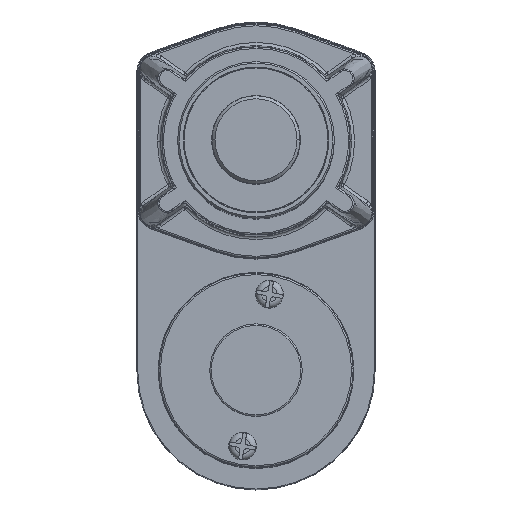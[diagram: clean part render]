
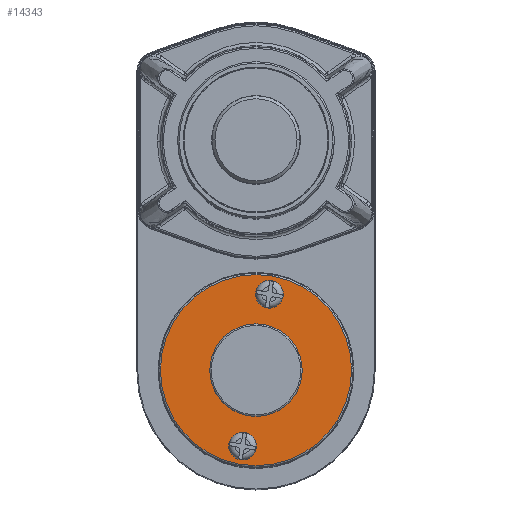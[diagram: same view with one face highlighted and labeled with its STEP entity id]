
A CAD part, top view. The second image highlights one B-rep face of the part: STEP entity #14343.
In plain terms, the highlighted planar face has unit normal (0, 0, 1).
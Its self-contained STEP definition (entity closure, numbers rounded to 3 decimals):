
#201 = CARTESIAN_POINT ( 'NONE',  ( -129.093, -35.69, 188.255 ) ) ;
#517 = CARTESIAN_POINT ( 'NONE',  ( -143.865, -33.085, 188.255 ) ) ;
#1558 = CIRCLE ( 'NONE', #47553, 31. ) ;
#1732 = CIRCLE ( 'NONE', #32984, 15. ) ;
#2067 = AXIS2_PLACEMENT_3D ( 'NONE', #13763, #30058, #21637 ) ;
#2083 = EDGE_CURVE ( 'NONE', #22341, #19103, #1558, .T. ) ;
#4012 = PLANE ( 'NONE',  #31816 ) ;
#5014 = CIRCLE ( 'NONE', #35380, 4.5 ) ;
#5232 = CIRCLE ( 'NONE', #38214, 31. ) ;
#7123 = DIRECTION ( 'NONE',  ( 0., 0., 1. ) ) ;
#8060 = DIRECTION ( 'NONE',  ( 0., 0., 1. ) ) ;
#8186 = ORIENTED_EDGE ( 'NONE', *, *, #12626, .F. ) ;
#8964 = DIRECTION ( 'NONE',  ( -0.174, -0.985, 0. ) ) ;
#9043 = EDGE_LOOP ( 'NONE', ( #24708, #22081 ) ) ;
#12626 = EDGE_CURVE ( 'NONE', #53802, #26276, #38250, .T. ) ;
#12716 = DIRECTION ( 'NONE',  ( 0., 0., 1. ) ) ;
#13560 = VERTEX_POINT ( 'NONE', #41445 ) ;
#13570 = DIRECTION ( 'NONE',  ( 0., 0., 1. ) ) ;
#13763 = CARTESIAN_POINT ( 'NONE',  ( -148.206, -57.705, 188.255 ) ) ;
#14343 = ADVANCED_FACE ( 'NONE', ( #37712, #24936, #33625, #33891 ), #4012, .T. ) ;
#14384 = CARTESIAN_POINT ( 'NONE',  ( -148.206, -57.705, 188.255 ) ) ;
#15542 = EDGE_LOOP ( 'NONE', ( #36324, #43753 ) ) ;
#16000 = DIRECTION ( 'NONE',  ( -0.174, -0.985, 0. ) ) ;
#16080 = EDGE_LOOP ( 'NONE', ( #47651, #8186 ) ) ;
#17287 = AXIS2_PLACEMENT_3D ( 'NONE', #21047, #29194, #25645 ) ;
#17400 = DIRECTION ( 'NONE',  ( 0., 0., 1. ) ) ;
#17600 = DIRECTION ( 'NONE',  ( -0.174, -0.985, 0. ) ) ;
#19103 = VERTEX_POINT ( 'NONE', #27449 ) ;
#19617 = CARTESIAN_POINT ( 'NONE',  ( -147.424, -53.274, 188.255 ) ) ;
#21047 = CARTESIAN_POINT ( 'NONE',  ( -139.523, -8.465, 188.255 ) ) ;
#21426 = VERTEX_POINT ( 'NONE', #33862 ) ;
#21637 = DIRECTION ( 'NONE',  ( -0.174, -0.985, 0. ) ) ;
#22081 = ORIENTED_EDGE ( 'NONE', *, *, #36529, .F. ) ;
#22341 = VERTEX_POINT ( 'NONE', #36949 ) ;
#23279 = EDGE_CURVE ( 'NONE', #43409, #21426, #23372, .T. ) ;
#23372 = CIRCLE ( 'NONE', #17287, 4.5 ) ;
#24466 = AXIS2_PLACEMENT_3D ( 'NONE', #517, #13570, #49993 ) ;
#24587 = VERTEX_POINT ( 'NONE', #46048 ) ;
#24708 = ORIENTED_EDGE ( 'NONE', *, *, #34774, .F. ) ;
#24936 = FACE_BOUND ( 'NONE', #50969, .T. ) ;
#25645 = DIRECTION ( 'NONE',  ( -0.174, -0.985, 0. ) ) ;
#26276 = VERTEX_POINT ( 'NONE', #19617 ) ;
#27449 = CARTESIAN_POINT ( 'NONE',  ( -138.482, -2.556, 188.255 ) ) ;
#27510 = DIRECTION ( 'NONE',  ( -0.174, -0.985, 0. ) ) ;
#29194 = DIRECTION ( 'NONE',  ( 0., 0., 1. ) ) ;
#29217 = EDGE_CURVE ( 'NONE', #19103, #22341, #5232, .T. ) ;
#30058 = DIRECTION ( 'NONE',  ( 0., 0., 1. ) ) ;
#30137 = EDGE_CURVE ( 'NONE', #21426, #43409, #5014, .T. ) ;
#31816 = AXIS2_PLACEMENT_3D ( 'NONE', #201, #12716, #17600 ) ;
#32300 = CARTESIAN_POINT ( 'NONE',  ( -139.523, -8.465, 188.255 ) ) ;
#32745 = DIRECTION ( 'NONE',  ( -0.174, -0.985, 0. ) ) ;
#32984 = AXIS2_PLACEMENT_3D ( 'NONE', #36969, #17400, #8964 ) ;
#33625 = FACE_OUTER_BOUND ( 'NONE', #15542, .T. ) ;
#33862 = CARTESIAN_POINT ( 'NONE',  ( -138.742, -4.033, 188.255 ) ) ;
#33891 = FACE_BOUND ( 'NONE', #9043, .T. ) ;
#34774 = EDGE_CURVE ( 'NONE', #13560, #24587, #1732, .T. ) ;
#35380 = AXIS2_PLACEMENT_3D ( 'NONE', #32300, #45048, #16000 ) ;
#35877 = ORIENTED_EDGE ( 'NONE', *, *, #30137, .F. ) ;
#36236 = CARTESIAN_POINT ( 'NONE',  ( -148.987, -62.137, 188.255 ) ) ;
#36324 = ORIENTED_EDGE ( 'NONE', *, *, #2083, .T. ) ;
#36529 = EDGE_CURVE ( 'NONE', #24587, #13560, #44383, .T. ) ;
#36632 = ORIENTED_EDGE ( 'NONE', *, *, #23279, .F. ) ;
#36949 = CARTESIAN_POINT ( 'NONE',  ( -149.248, -63.614, 188.255 ) ) ;
#36969 = CARTESIAN_POINT ( 'NONE',  ( -143.865, -33.085, 188.255 ) ) ;
#37712 = FACE_BOUND ( 'NONE', #16080, .T. ) ;
#38214 = AXIS2_PLACEMENT_3D ( 'NONE', #50452, #8060, #46103 ) ;
#38250 = CIRCLE ( 'NONE', #52165, 4.5 ) ;
#39756 = CARTESIAN_POINT ( 'NONE',  ( -143.865, -33.085, 188.255 ) ) ;
#39857 = EDGE_CURVE ( 'NONE', #26276, #53802, #48948, .T. ) ;
#41445 = CARTESIAN_POINT ( 'NONE',  ( -146.469, -47.857, 188.255 ) ) ;
#43409 = VERTEX_POINT ( 'NONE', #46416 ) ;
#43753 = ORIENTED_EDGE ( 'NONE', *, *, #29217, .T. ) ;
#44383 = CIRCLE ( 'NONE', #24466, 15. ) ;
#45048 = DIRECTION ( 'NONE',  ( 0., 0., 1. ) ) ;
#46048 = CARTESIAN_POINT ( 'NONE',  ( -141.26, -18.313, 188.255 ) ) ;
#46103 = DIRECTION ( 'NONE',  ( -0.174, -0.985, 0. ) ) ;
#46416 = CARTESIAN_POINT ( 'NONE',  ( -140.305, -12.897, 188.255 ) ) ;
#47553 = AXIS2_PLACEMENT_3D ( 'NONE', #39756, #7123, #27510 ) ;
#47651 = ORIENTED_EDGE ( 'NONE', *, *, #39857, .F. ) ;
#47796 = DIRECTION ( 'NONE',  ( 0., 0., 1. ) ) ;
#48948 = CIRCLE ( 'NONE', #2067, 4.5 ) ;
#49993 = DIRECTION ( 'NONE',  ( -0.174, -0.985, 0. ) ) ;
#50452 = CARTESIAN_POINT ( 'NONE',  ( -143.865, -33.085, 188.255 ) ) ;
#50969 = EDGE_LOOP ( 'NONE', ( #35877, #36632 ) ) ;
#52165 = AXIS2_PLACEMENT_3D ( 'NONE', #14384, #47796, #32745 ) ;
#53802 = VERTEX_POINT ( 'NONE', #36236 ) ;
